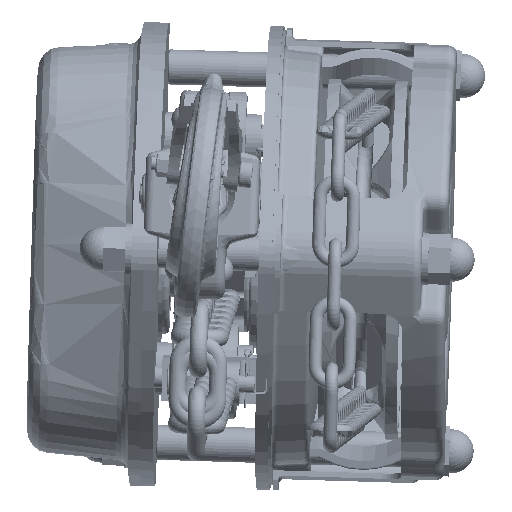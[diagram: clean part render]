
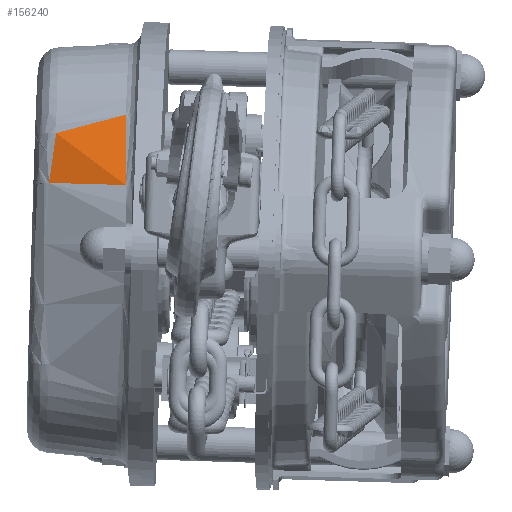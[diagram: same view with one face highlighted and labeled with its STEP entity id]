
A CAD part, front view. The second image highlights one B-rep face of the part: STEP entity #156240.
In plain terms, the highlighted free-form (B-spline) face has degree [1, 1] with [2, 2] control points.
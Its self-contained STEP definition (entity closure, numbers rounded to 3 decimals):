
#1003 = CARTESIAN_POINT ( 'NONE',  ( 14.96, -24.95, 22.576 ) ) ;
#4857 = CARTESIAN_POINT ( 'NONE',  ( 31.078, -23.491, 5.528 ) ) ;
#5439 = ORIENTED_EDGE ( 'NONE', *, *, #92416, .T. ) ;
#5766 = EDGE_LOOP ( 'NONE', ( #121895, #170926, #144195, #84883, #5439, #112373 ) ) ;
#11167 = LINE ( 'NONE', #94772, #33018 ) ;
#12434 = EDGE_CURVE ( 'NONE', #87955, #53174, #86508, .T. ) ;
#13696 = CARTESIAN_POINT ( 'NONE',  ( 20.324, -27.804, 5.181 ) ) ;
#23746 = CARTESIAN_POINT ( 'NONE',  ( 26.373, -23.808, 21.296 ) ) ;
#24010 = EDGE_CURVE ( 'NONE', #53174, #146985, #51498, .T. ) ;
#24030 = VERTEX_POINT ( 'NONE', #4857 ) ;
#26831 = CARTESIAN_POINT ( 'NONE',  ( 31.895, -23.435, 2.8 ) ) ;
#31873 = DIRECTION ( 'NONE',  ( 0., -0.276, -0.961 ) ) ;
#33018 = VECTOR ( 'NONE', #153589, 1000. ) ;
#37295 = CARTESIAN_POINT ( 'NONE',  ( 14.96, -29.996, 5.033 ) ) ;
#38178 = EDGE_CURVE ( 'NONE', #87955, #130185, #11167, .T. ) ;
#40119 = FACE_OUTER_BOUND ( 'NONE', #5766, .T. ) ;
#42141 = CARTESIAN_POINT ( 'NONE',  ( 24.909, -23.907, 26.2 ) ) ;
#42188 = CARTESIAN_POINT ( 'NONE',  ( 31.078, -23.491, 5.528 ) ) ;
#49008 = CARTESIAN_POINT ( 'NONE',  ( 14.961, -29.997, 5.026 ) ) ;
#50206 = CARTESIAN_POINT ( 'NONE',  ( 14.96, -29.992, 5.048 ) ) ;
#51498 = LINE ( 'NONE', #87553, #86417 ) ;
#53174 = VERTEX_POINT ( 'NONE', #1003 ) ;
#54164 = CARTESIAN_POINT ( 'NONE',  ( 14.96, -24.95, 22.576 ) ) ;
#59675 = CARTESIAN_POINT ( 'NONE',  ( 31.074, -23.491, 5.551 ) ) ;
#68243 = CARTESIAN_POINT ( 'NONE',  ( 25.695, -25.633, 5.35 ) ) ;
#83559 = CARTESIAN_POINT ( 'NONE',  ( 14.961, -29.997, 5.026 ) ) ;
#84883 = ORIENTED_EDGE ( 'NONE', *, *, #93454, .T. ) ;
#86417 = VECTOR ( 'NONE', #31873, 1000. ) ;
#86508 = B_SPLINE_CURVE_WITH_KNOTS ( 'NONE', 3,
 ( #124593, #92675, #111102, #54164 ),
 .UNSPECIFIED., .F., .F.,
 ( 4, 4 ),
 ( 0., 0.012 ),
 .UNSPECIFIED. ) ;
#87553 = CARTESIAN_POINT ( 'NONE',  ( 14.96, -27.273, 14.5 ) ) ;
#87955 = VERTEX_POINT ( 'NONE', #23746 ) ;
#92416 = EDGE_CURVE ( 'NONE', #168699, #24030, #173061, .T. ) ;
#92675 = CARTESIAN_POINT ( 'NONE',  ( 22.58, -24.302, 21.709 ) ) ;
#93454 = EDGE_CURVE ( 'NONE', #146985, #168699, #94431, .T. ) ;
#94431 = B_SPLINE_CURVE_WITH_KNOTS ( 'NONE', 3,
 ( #50206, #132920, #37295, #49008 ),
 .UNSPECIFIED., .F., .F.,
 ( 4, 4 ),
 ( 0., 0. ),
 .UNSPECIFIED. ) ;
#94772 = CARTESIAN_POINT ( 'NONE',  ( 28.402, -23.671, 14.5 ) ) ;
#94776 = B_SPLINE_SURFACE_WITH_KNOTS ( 'NONE', 1, 1, ( 
 ( #42141, #26831 ),
 ( #168954, #96617 ) ),
 .UNSPECIFIED., .F., .F., .F.,
 ( 2, 2 ),
 ( 2, 2 ),
 ( 0., 1. ),
 ( 0., 1. ),
 .UNSPECIFIED. ) ;
#95222 = CARTESIAN_POINT ( 'NONE',  ( 31.078, -23.491, 5.528 ) ) ;
#96617 = CARTESIAN_POINT ( 'NONE',  ( 14.96, -30.638, 2.8 ) ) ;
#111102 = CARTESIAN_POINT ( 'NONE',  ( 18.775, -24.686, 22.15 ) ) ;
#112373 = ORIENTED_EDGE ( 'NONE', *, *, #114963, .T. ) ;
#114963 = EDGE_CURVE ( 'NONE', #24030, #130185, #140606, .T. ) ;
#121895 = ORIENTED_EDGE ( 'NONE', *, *, #38178, .F. ) ;
#124593 = CARTESIAN_POINT ( 'NONE',  ( 26.373, -23.808, 21.296 ) ) ;
#130185 = VERTEX_POINT ( 'NONE', #59675 ) ;
#132920 = CARTESIAN_POINT ( 'NONE',  ( 14.96, -29.994, 5.041 ) ) ;
#140606 = B_SPLINE_CURVE_WITH_KNOTS ( 'NONE', 3,
 ( #42188, #152423, #167126, #140785 ),
 .UNSPECIFIED., .F., .F.,
 ( 4, 4 ),
 ( 0., 0. ),
 .UNSPECIFIED. ) ;
#140785 = CARTESIAN_POINT ( 'NONE',  ( 31.074, -23.491, 5.551 ) ) ;
#144195 = ORIENTED_EDGE ( 'NONE', *, *, #24010, .T. ) ;
#146650 = CARTESIAN_POINT ( 'NONE',  ( 14.961, -29.997, 5.026 ) ) ;
#146985 = VERTEX_POINT ( 'NONE', #151880 ) ;
#151880 = CARTESIAN_POINT ( 'NONE',  ( 14.96, -29.992, 5.048 ) ) ;
#152423 = CARTESIAN_POINT ( 'NONE',  ( 31.077, -23.491, 5.536 ) ) ;
#153589 = DIRECTION ( 'NONE',  ( 0.286, 0.019, -0.958 ) ) ;
#156240 = ADVANCED_FACE ( 'NONE', ( #40119 ), #94776, .T. ) ;
#167126 = CARTESIAN_POINT ( 'NONE',  ( 31.076, -23.49, 5.544 ) ) ;
#168699 = VERTEX_POINT ( 'NONE', #146650 ) ;
#168954 = CARTESIAN_POINT ( 'NONE',  ( 14.96, -23.907, 26.2 ) ) ;
#170926 = ORIENTED_EDGE ( 'NONE', *, *, #12434, .T. ) ;
#173061 = B_SPLINE_CURVE_WITH_KNOTS ( 'NONE', 3,
 ( #83559, #13696, #68243, #95222 ),
 .UNSPECIFIED., .F., .F.,
 ( 4, 4 ),
 ( 0., 0.017 ),
 .UNSPECIFIED. ) ;
